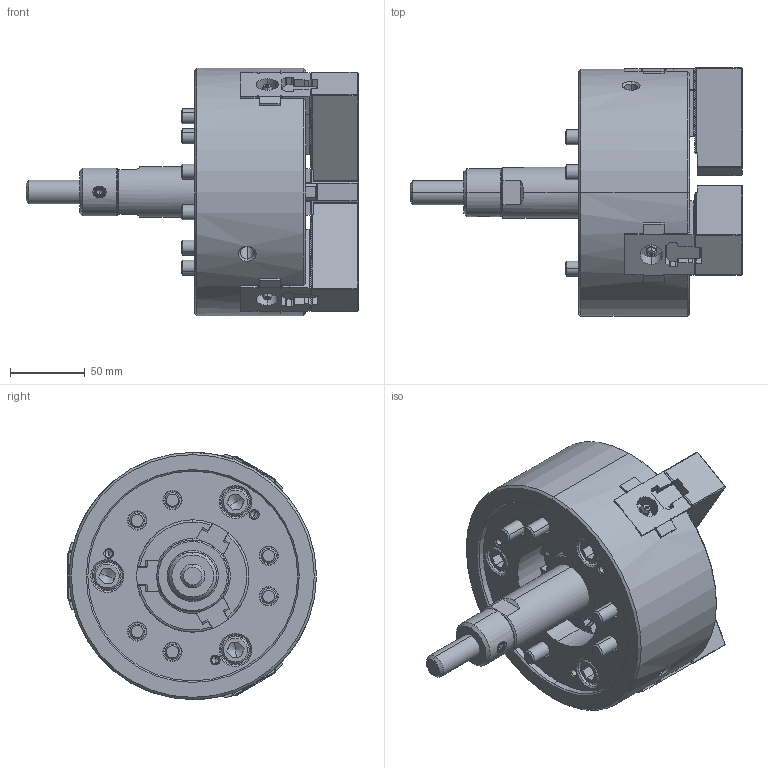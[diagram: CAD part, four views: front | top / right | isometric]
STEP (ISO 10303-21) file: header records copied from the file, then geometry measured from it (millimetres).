
FILE_DESCRIPTION (( 'STEP AP214' ), '1' );
FILE_NAME ('DT1_N-06_OUTSIDE_VIEW_UC.STEP', '2026-03-13T02:42:05', ( '' ), ( '' ), 'SwSTEP 2.0', 'SolidWorks 2022', '' );
FILE_SCHEMA (( 'AUTOMOTIVE_DESIGN' ));
Length unit declared in the file: millimetre
Products named in the file (11): DT1_N-06_DRAWSCREW^DT1_N-06; DT1_N-06_M10x70^DT1_N-06; DT1_N-06_M5x12^DT1_N-06; DT1_N-06_SOFTJAW^DT1_N-06; DT1_N-06_COVER^DT1_N-06; DT1_N-06_BASE^DT1_N-06; DT1_N-06_TNUT^DT1_N-06; DT1_N-06_DN^DT1_N-06; Copy of P31410^DT1_N-06; DT1_N-06_OUTSIDE_VIEW_UC; DT1_N-06_M10x30^DT1_N-06
Assembly tree (26 placements, depth 2):
  DT1_N-06_OUTSIDE_VIEW_UC
    DT1_N-06_SOFTJAW^DT1_N-06  x3
    DT1_N-06_TNUT^DT1_N-06  x3
    DT1_N-06_COVER^DT1_N-06
    DT1_N-06_DRAWSCREW^DT1_N-06
    Copy of P31410^DT1_N-06
    DT1_N-06_DN^DT1_N-06
    DT1_N-06_BASE^DT1_N-06
    DT1_N-06_M5x12^DT1_N-06  x3
    DT1_N-06_M10x30^DT1_N-06  x6
    DT1_N-06_M10x70^DT1_N-06  x6
Bounding box: 221.5 x 166.05 x 165 mm (x, y, z)
Volume: 1637701.1 mm3; surface area: 270856.9 mm2
Topology: 26 solids, 26 shells, 3746 faces, 10450 edges, 6802 vertices
Faces by surface type: plane 2234, cylinder 959, cone 356, bspline 133, torus 58, sphere 6
Entity records: 89991 total; most frequent: CARTESIAN_POINT 26473, ORIENTED_EDGE 14256, DIRECTION 11496, EDGE_CURVE 7128, LINE 4946, VECTOR 4946, VERTEX_POINT 4650, AXIS2_PLACEMENT_3D 3275
